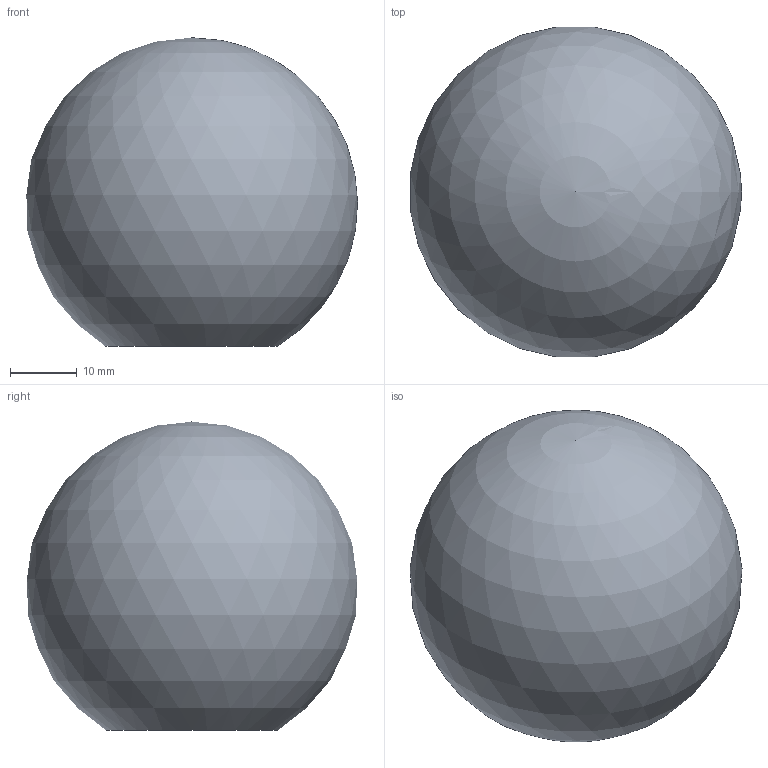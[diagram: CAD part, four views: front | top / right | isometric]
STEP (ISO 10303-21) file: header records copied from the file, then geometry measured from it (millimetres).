
FILE_DESCRIPTION( ('This file contains a STEP AP42 implementation' ,'as created by ZW3D STEP Interface translator.') ,'2;1' );
FILE_NAME( 'Galka kulista DK50 typB.stp' ,'26 4 1. 81125', (''), ('ZWCAD Software Co.'), 'Version 1.0', 'ZW3D to STEP translator', '' );
FILE_SCHEMA(('AP242_MANAGED_MODEL_BASED_3D_ENGINEERING_MIM_LF { 1 0 10303 442 1 1 4 }'));
Length unit declared in the file: millimetre
Products named in the file (1): 0
Bounding box: 49.8 x 49.61 x 46.4 mm (x, y, z)
Volume: 62097.4 mm3; surface area: 8726.7 mm2
Topology: 1 solids, 1 shells, 5 faces, 8 edges, 5 vertices
Faces by surface type: plane 2, sphere 1, cone 1, cylinder 1
Full cylindrical faces by diameter (mm): 10.2 x1
Entity records: 139 total; most frequent: DIRECTION 24, CARTESIAN_POINT 18, ORIENTED_EDGE 14, AXIS2_PLACEMENT_3D 11, EDGE_CURVE 7, EDGE_LOOP 6, VERTEX_POINT 5, CIRCLE 5
